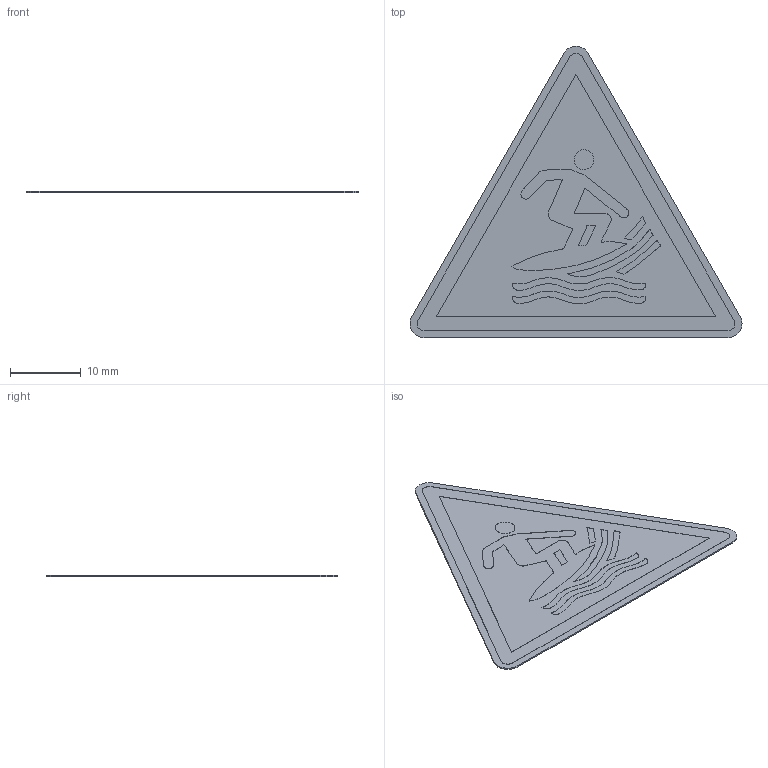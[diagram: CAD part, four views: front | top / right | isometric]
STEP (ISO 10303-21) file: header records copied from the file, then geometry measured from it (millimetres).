
FILE_DESCRIPTION (( 'STEP AP214' ), '1' );
FILE_NAME ('W046_Warnung vor Surfsportgebiet.STEP', '2022-03-03T14:14:13', ( '' ), ( '' ), 'SwSTEP 2.0', 'SolidWorks 2021', '' );
FILE_SCHEMA (( 'AUTOMOTIVE_DESIGN' ));
Length unit declared in the file: millimetre
Products named in the file (1): W046_Warnung vor Surfsportgebiet
Bounding box: 47.07 x 41.3 x 0.22 mm (x, y, z)
Volume: 223.1 mm3; surface area: 2186.9 mm2
Topology: 1 solids, 1 shells, 271 faces, 777 edges, 518 vertices
Faces by surface type: plane 203, cylinder 68
Entity records: 11712 total; most frequent: CARTESIAN_POINT 1567, ORIENTED_EDGE 1554, DIRECTION 1457, EDGE_CURVE 777, LINE 641, VECTOR 641, VERTEX_POINT 518, AXIS2_PLACEMENT_3D 408
